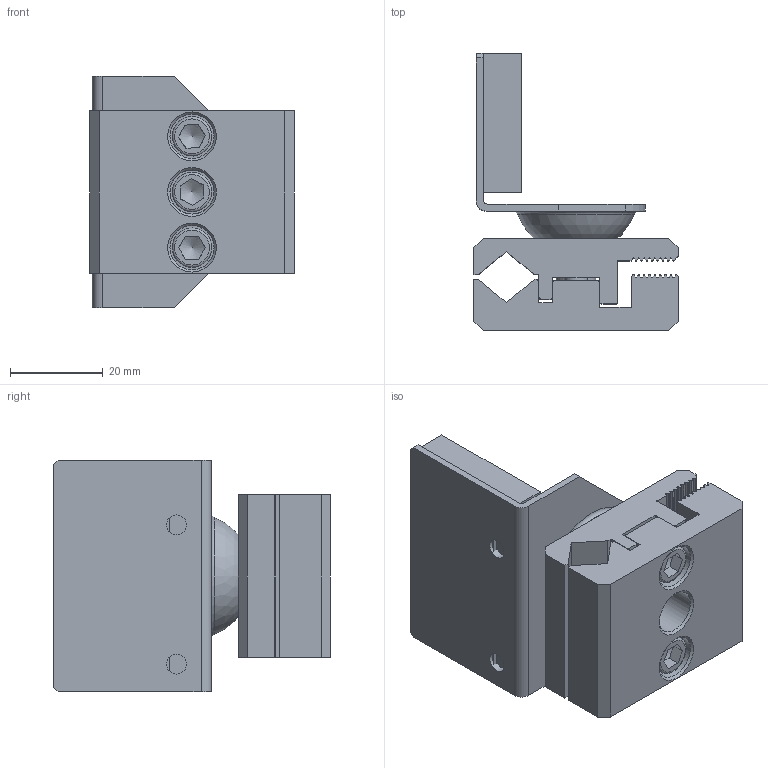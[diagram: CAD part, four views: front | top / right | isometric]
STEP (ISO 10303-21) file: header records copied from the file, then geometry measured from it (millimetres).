
FILE_DESCRIPTION(/* description */ (''),/* implementation_level */ '2;1');
FILE_NAME(/* name */ '3DCAD_BTU934M_VKT_L_90.stp',/* time_stamp */ '2020-05-25T12:02:32+02:00',/* author */ ('CC2'),/* organization */ ('Leuze electronic'),/* preprocessor_version */ 'ST-DEVELOPER v16',/* originating_system */ 'SIEMENS PLM Software NX 11.0',/* authorisation */ '');
FILE_SCHEMA (('AUTOMOTIVE_DESIGN { 1 0 10303 214 3 1 1 1 }'));
Length unit declared in the file: millimetre
Products named in the file (7): 002045_00.0_1-TK_30x46; 002904_D_1-Befestigungsblech_BTU_001_123; 003697_D1_1-Klemmscheibe_BTU_001_134; T_C_M_2040_00.0_1-Schraube-Zyl. DIN 912 M5x12; 023572_01_1-Klemmprofil oben bearb_BTU300_005; 021159_01_1-Klemmprofil unten bearb_BTU300_004; 19-103130_00_1-3DCAD_BTU934M_VKT_L_90
Assembly tree (8 placements, depth 2):
  19-103130_00_1-3DCAD_BTU934M_VKT_L_90
    021159_01_1-Klemmprofil unten bearb_BTU300_004
    023572_01_1-Klemmprofil oben bearb_BTU300_005
    T_C_M_2040_00.0_1-Schraube-Zyl. DIN 912 M5x12  x3
    003697_D1_1-Klemmscheibe_BTU_001_134
    002904_D_1-Befestigungsblech_BTU_001_123
    002045_00.0_1-TK_30x46
Bounding box: 44 x 59.7 x 50 mm (x, y, z)
Volume: 41159.5 mm3; surface area: 24579.7 mm2
Topology: 8 solids, 8 shells, 518 faces, 1485 edges, 989 vertices
Faces by surface type: plane 348, cylinder 75, cone 47, sphere 40, torus 8
Full cylindrical faces by diameter (mm): 4.2 x3, 4.3 x2, 5 x3, 5.5 x3, 8.5 x3, 9.5 x3, 18 x1
Entity records: 16353 total; most frequent: CARTESIAN_POINT 3067, DIRECTION 2839, ORIENTED_EDGE 2742, EDGE_CURVE 1371, AXIS2_PLACEMENT_3D 1051, VERTEX_POINT 929, LINE 737, VECTOR 737
